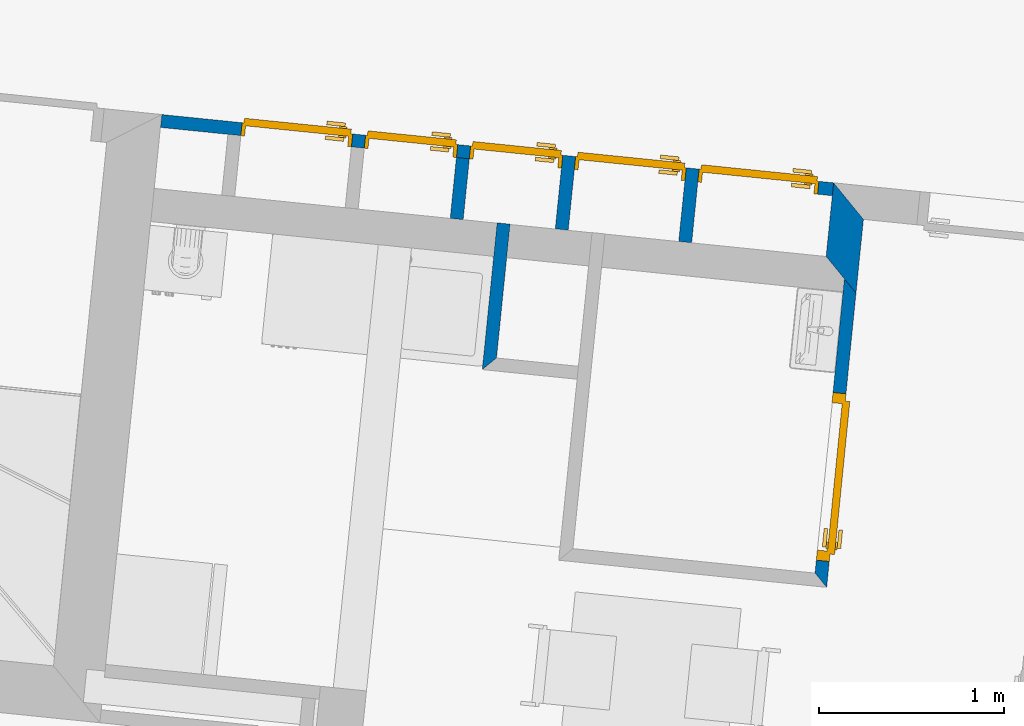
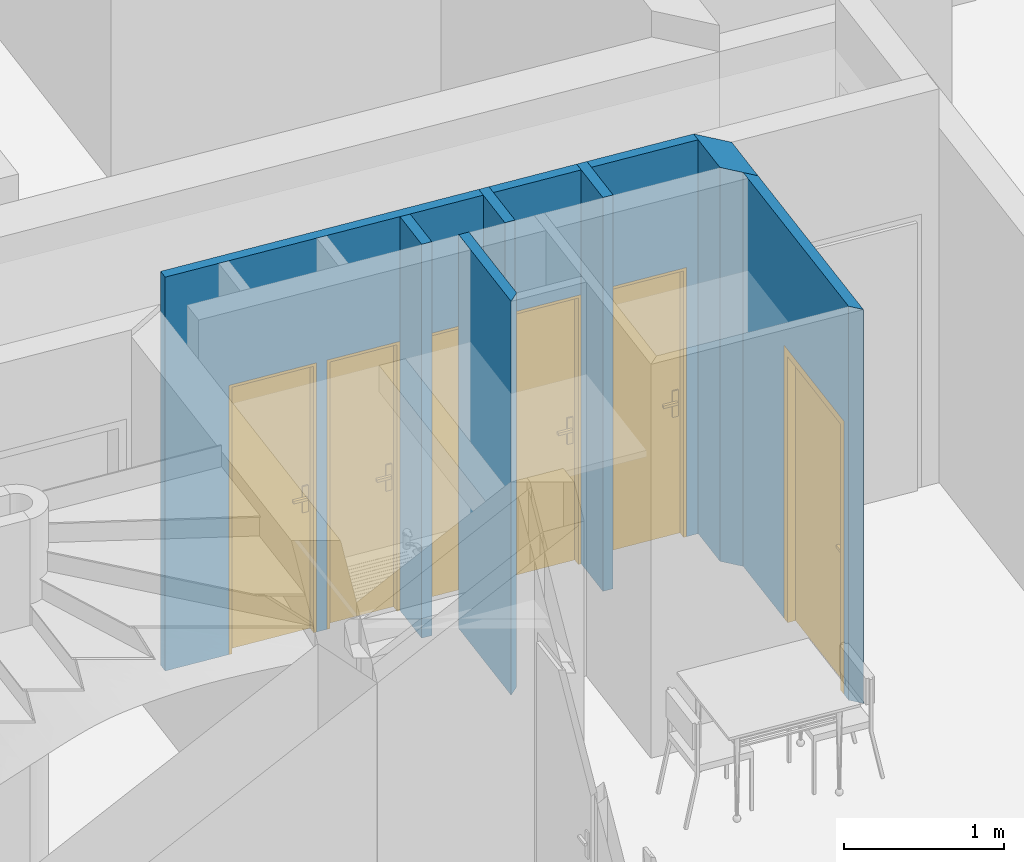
# One storey, part 74 of 171: 7 walls, 6 doors, 6 openings.
"""IFC2X3 building model written with IfcOpenShell, lengths in millimetres."""

from ifc_helpers import new_model, entity, si_unit, converted_unit, derived_unit, money_unit, direction, frame, origin_with_axes, origin_2d_with_axis, place, context, subcontext, project, spatial, polyline, rectangle, outline, extrude, faceted_brep, source, transform, mapped, material, layer, layer_set, layer_usage, type_object, element, fill, save


model = new_model("IFC2X3")

# Units and contexts
model_context = context("Model", 3, precision=0.01, world=origin_with_axes(), true_north=direction((0.0, 1.0)))
body_context = subcontext(model_context, "Body", "Model", "MODEL_VIEW")
ifc_project = project(units=[si_unit("LENGTHUNIT", "METRE", prefix="MILLI"), si_unit("AREAUNIT", "SQUARE_METRE"), si_unit("VOLUMEUNIT", "CUBIC_METRE"), converted_unit("PLANEANGLEUNIT", "DEGREE", entity("IfcPlaneAngleMeasure", 0.0174532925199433), si_unit("PLANEANGLEUNIT", "RADIAN"), dimensions=[0, 0, 0, 0, 0, 0, 0]), money_unit("USD"), converted_unit("TIMEUNIT", "Year", entity("IfcTimeMeasure", 31557600.0), si_unit("TIMEUNIT", "SECOND"), dimensions=[0, 0, 1, 0, 0, 0, 0]), si_unit("MASSUNIT", "GRAM", prefix="KILO"), si_unit("THERMODYNAMICTEMPERATUREUNIT", "DEGREE_CELSIUS"), si_unit("LUMINOUSINTENSITYUNIT", "LUMEN"), si_unit("ENERGYUNIT", "JOULE", prefix="MEGA"), derived_unit("THERMALCONDUCTANCEUNIT", [(si_unit("POWERUNIT", "WATT"), 1), (si_unit("LENGTHUNIT", "METRE"), -1), (si_unit("THERMODYNAMICTEMPERATUREUNIT", "KELVIN"), -1)]), derived_unit("SPECIFICHEATCAPACITYUNIT", [(si_unit("ENERGYUNIT", "JOULE"), 1), (si_unit("MASSUNIT", "GRAM", prefix="KILO"), -1), (si_unit("THERMODYNAMICTEMPERATUREUNIT", "KELVIN"), -1)]), derived_unit("MASSDENSITYUNIT", [(si_unit("MASSUNIT", "GRAM", prefix="KILO"), 1), (si_unit("VOLUMEUNIT", "CUBIC_METRE"), -1)])], contexts=[model_context])

# Site, building, storey
site_placement = place(None, origin_with_axes())
site = spatial("IfcSite", under=ifc_project, at=site_placement, Name="Site", CompositionType="ELEMENT")
building_placement = place(site_placement, origin_with_axes())
building = spatial("IfcBuilding", under=site, at=building_placement, Name="Bâtiment", CompositionType="ELEMENT")
storey_placement = place(building_placement, frame((0.0, 0.0, 3000.0), z_axis=(0.0, 0.0, 1.0), x_axis=(1.0, 0.0, 0.0)))
storey = spatial("IfcBuildingStorey", under=building, at=storey_placement, Name="rdc", CompositionType="ELEMENT", Elevation=3000.0)

# Walls
ifc_material_1 = material(Name="Parpaing 314940890")
ifc_layer_1 = layer(ifc_material_1, 180.0, ventilated="UNKNOWN")
ifc_layer_set_1 = layer_set([ifc_layer_1], Name="Beton  18 0018356637")
ifc_layer_usage_1 = layer_usage(ifc_layer_set_1, "AXIS2", "NEGATIVE", 0.0)
wall_type_1 = type_object("IfcWallType", Name="Beton  18 0018356637 180", PredefinedType="NOTDEFINED")
wall_1_placement = place(storey_placement, frame((2232611.91833897, -614997.468755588, 0.0), z_axis=(0.0, 0.0, 1.0), x_axis=(0.1011032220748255, 0.9948759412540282, 0.0)))
element("IfcWallStandardCase", 1, at=wall_1_placement, inside=storey, type_object=wall_type_1, material=ifc_layer_usage_1, Name="Mur-142", context=body_context, shape_type="SweptSolid", body=[
    extrude(outline(polyline([(-179.9516887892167, -180.0000000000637), (219.9639479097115, -179.99999999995), (399.9639479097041, 0.0), (0.0, 0.0), (-179.9516887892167, -180.0000000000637)])), origin_with_axes(), (0.0, 0.0, 1.0), 3000.0),
])
ifc_material_2 = material(Name="Hachure solide 268963992")
ifc_layer_2 = layer(ifc_material_2, 70.0, ventilated="UNKNOWN")
ifc_layer_set_2 = layer_set([ifc_layer_2], Name="Cloison 70 0826278243")
ifc_layer_usage_2 = layer_usage(ifc_layer_set_2, "AXIS2", "NEGATIVE", 0.0)
wall_type_2 = type_object("IfcWallType", Name="Cloison 70 0826278243 70", PredefinedType="NOTDEFINED")
wall_2_placement = place(storey_placement, frame((2231816.092435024, -614915.8498374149, 0.0), z_axis=(0.0, 0.0, 1.0), x_axis=(0.1011032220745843, 0.9948759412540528, 0.0)))
element("IfcWallStandardCase", 2, at=wall_2_placement, inside=storey, type_object=wall_type_2, material=ifc_layer_usage_2, Name="Mur-121", context=body_context, shape_type="SweptSolid", body=[
    extrude(outline(polyline([(0.0, -70.00000000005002), (399.2769462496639, -70.00000000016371), (399.2769462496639, -1.13686837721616e-10), (0.0, 0.0), (0.0, -70.00000000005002)])), origin_with_axes(), (0.0, 0.0, 1.0), 3000.0),
])

# Wall, openings, doors
ifc_layer_usage_3 = layer_usage(ifc_layer_set_2, "AXIS2", "NEGATIVE", 0.0)
wall_3_placement = place(storey_placement, frame((2229025.375375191, -614230.9661535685, 0.0), z_axis=(0.0, 0.0, 1.0), x_axis=(0.9948759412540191, -0.1011032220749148, 0.0)))
wall_3 = element("IfcWallStandardCase", 3, at=wall_3_placement, inside=storey, type_object=wall_type_2, material=ifc_layer_usage_3, Name="Mur-120", context=body_context, shape_type="SweptSolid", body=[
    extrude(outline(polyline([(0.0, -70.00000000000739), (3645.661189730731, -70.00000000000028), (3645.661189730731, 0.0), (0.0, 0.0), (0.0, -70.00000000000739)])), origin_with_axes(), (0.0, 0.0, 1.0), 3000.0),
])
opening_1_placement = place(wall_3_placement, frame((2545.661208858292, 0.0, 0.0), z_axis=(0.0, 0.0, 1.0), x_axis=(1.0, 0.0, 0.0)))
opening_1 = element("IfcOpeningElement", 4, at=opening_1_placement, cuts=wall_3, Name="Por-202", context=body_context, shape_type="SweptSolid", body=[
    extrude(rectangle(XDim=600.0000000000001, YDim=2050.0, at=origin_2d_with_axis()), frame((-1.13686837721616e-10, -70.0000000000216, 1025.0), z_axis=(0.0, -1.0, 0.0), x_axis=(-1.0, 0.0, 0.0)), (0.0, 0.0, -1.0), 140.0),
])
opening_2_placement = place(wall_3_placement, frame((735.6612088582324, 0.0, 0.0), z_axis=(0.0, 0.0, 1.0), x_axis=(1.0, 0.0, 0.0)))
opening_2 = element("IfcOpeningElement", 5, at=opening_2_placement, cuts=wall_3, Name="Por-202", context=body_context, shape_type="SweptSolid", body=[
    extrude(rectangle(XDim=600.0000000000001, YDim=2050.0, at=origin_2d_with_axis()), frame((-1.13686837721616e-10, -70.00000000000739, 1025.0), z_axis=(0.0, -1.0, 0.0), x_axis=(-1.0, 0.0, 0.0)), (0.0, 0.0, -1.0), 140.0),
])
opening_3_placement = place(wall_3_placement, frame((3240.661208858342, 0.0, 0.0), z_axis=(0.0, 0.0, 1.0), x_axis=(1.0, 0.0, 0.0)))
opening_3 = element("IfcOpeningElement", 6, at=opening_3_placement, cuts=wall_3, Name="Por-202", context=body_context, shape_type="SweptSolid", body=[
    extrude(rectangle(XDim=650.0000000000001, YDim=2050.0, at=origin_2d_with_axis()), frame((-1.13686837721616e-10, -69.99999999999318, 1025.0), z_axis=(0.0, -1.0, 0.0), x_axis=(-1.0, 0.0, 0.0)), (0.0, 0.0, -1.0), 140.0),
])
opening_4_placement = place(wall_3_placement, frame((1925.661208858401, 0.0, 0.0), z_axis=(0.0, 0.0, 1.0), x_axis=(1.0, 0.0, 0.0)))
opening_4 = element("IfcOpeningElement", 7, at=opening_4_placement, cuts=wall_3, Name="Por-202", context=body_context, shape_type="SweptSolid", body=[
    extrude(rectangle(XDim=500.0, YDim=2050.0, at=origin_2d_with_axis()), frame((0.0, -69.99999999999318, 1025.0), z_axis=(0.0, -1.0, 0.0), x_axis=(-1.0, 0.0, 0.0)), (0.0, 0.0, -1.0), 140.0),
])
opening_5_placement = place(wall_3_placement, frame((1355.661208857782, 0.0, 0.0), z_axis=(0.0, 0.0, 1.0), x_axis=(1.0, 0.0, 0.0)))
opening_5 = element("IfcOpeningElement", 8, at=opening_5_placement, cuts=wall_3, Name="Por-202", context=body_context, shape_type="SweptSolid", body=[
    extrude(rectangle(XDim=500.0, YDim=2050.0, at=origin_2d_with_axis()), frame((0.0, -69.99999999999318, 1025.0), z_axis=(0.0, -1.0, 0.0), x_axis=(-1.0, 0.0, 0.0)), (0.0, 0.0, -1.0), 140.0),
])
door_style = type_object("IfcDoorStyle", Name="Porte_1v", ConstructionType="NOTDEFINED", OperationType="NOTDEFINED", ParameterTakesPrecedence=False, Sizeable=False)
shared_shape_1 = source(origin_with_axes(), body_context, "Body", "Brep", [
    faceted_brep([(-250.0, 0.0, 0.0), (-250.0, 0.0, 2050.0), (250.0, 0.0, 2050.0), (250.0, 0.0, 0.0), (240.0, 0.0, 0.0), (240.0, 0.0, 2040.0), (-240.0, 0.0, 2040.0), (-240.0, 0.0, 0.0), (-250.0, -70.0, 0.0), (-250.0, -70.0, 2050.0), (250.0, -70.0, 2050.0), (250.0, -70.0, 0.0), (230.0, -70.0, 0.0), (230.0, -15.0, 0.0), (240.0, -15.0, 0.0), (240.0, -15.0, 2040.0), (-240.0, -15.0, 2040.0), (-240.0, -15.0, 0.0), (-230.0, -15.0, 0.0), (-230.0, -70.0, 0.0), (-230.0, -70.0, 2030.0), (230.0, -70.0, 2030.0), (230.0, -15.0, 2030.0), (-230.0, -15.0, 2030.0)], [[[0, 1, 2, 3, 4, 5, 6, 7]], [[8, 9, 1, 0]], [[9, 10, 2, 1]], [[10, 11, 3, 2]], [[3, 11, 12, 13, 14, 4]], [[5, 4, 14, 15]], [[6, 5, 15, 16]], [[7, 6, 16, 17]], [[0, 7, 17, 18, 19, 8]], [[19, 20, 21, 12, 11, 10, 9, 8]], [[22, 13, 12, 21]], [[17, 16, 15, 14, 13, 22, 23, 18]], [[18, 23, 20, 19]], [[23, 22, 21, 20]]]),
    faceted_brep([(175.0, -15.0, 900.0), (175.0, -15.0, 1100.0), (215.0, -15.0, 1100.0), (215.0, -15.0, 900.0), (175.0, -25.0, 900.0), (175.0, -25.0, 1100.0), (215.0, -25.0, 1100.0), (215.0, -25.0, 900.0)], [[[0, 1, 2, 3]], [[0, 4, 5, 1]], [[1, 5, 6, 2]], [[2, 6, 7, 3]], [[3, 7, 4, 0]], [[7, 6, 5, 4]]]),
    faceted_brep([(105.0, -25.0, 1000.0), (105.0, -25.0, 1020.0), (205.0, -25.0, 1020.0), (205.0, -25.0, 1000.0), (105.0, -45.0, 1000.0), (105.0, -45.0, 1020.0), (205.0, -45.0, 1020.0), (205.0, -45.0, 1000.0)], [[[0, 1, 2, 3]], [[0, 4, 5, 1]], [[1, 5, 6, 2]], [[2, 6, 7, 3]], [[3, 7, 4, 0]], [[7, 6, 5, 4]]]),
    faceted_brep([(175.0, 35.0, 900.0), (175.0, 35.0, 1100.0), (215.0, 35.0, 1100.0), (215.0, 35.0, 900.0), (175.0, 25.0, 900.0), (175.0, 25.0, 1100.0), (215.0, 25.0, 1100.0), (215.0, 25.0, 900.0)], [[[0, 1, 2, 3]], [[0, 4, 5, 1]], [[1, 5, 6, 2]], [[2, 6, 7, 3]], [[3, 7, 4, 0]], [[7, 6, 5, 4]]]),
    faceted_brep([(105.0, 55.00000000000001, 1000.0), (105.0, 55.00000000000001, 1020.0), (205.0, 55.00000000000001, 1020.0), (205.0, 55.00000000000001, 1000.0), (105.0, 35.0, 1000.0), (105.0, 35.0, 1020.0), (205.0, 35.0, 1020.0), (205.0, 35.0, 1000.0)], [[[0, 1, 2, 3]], [[0, 4, 5, 1]], [[1, 5, 6, 2]], [[2, 6, 7, 3]], [[3, 7, 4, 0]], [[7, 6, 5, 4]]]),
    faceted_brep([(240.0, 25.0, 0.0), (240.0, -15.0, 0.0), (-240.0, -15.0, 0.0), (-240.0, 25.0, 0.0), (240.0, 25.0, 2040.0), (240.0, -15.0, 2040.0), (-240.0, -15.0, 2040.0), (-240.0, 25.0, 2040.0)], [[[0, 1, 2, 3]], [[4, 5, 1, 0]], [[1, 5, 6, 2]], [[3, 2, 6, 7]], [[0, 3, 7, 4]], [[7, 6, 5, 4]]]),
])
door_1_placement = place(opening_4_placement, frame((-239.9999999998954, 0.0, 0.0), z_axis=(0.0, 0.0, 1.0), x_axis=(1.0, 0.0, 0.0)))
door_1 = element("IfcDoor", 9, at=door_1_placement, inside=storey, type_object=door_style, Name="Por-202", OverallHeight=2040.0, OverallWidth=480.0, context=body_context, shape_type="MappedRepresentation", body=[
    mapped(shared_shape_1, transform((240.0000000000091, 0.0, 0.0))),
])
fill(opening_4, door_1)
door_2_placement = place(opening_5_placement, frame((-240.0000000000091, 0.0, 0.0), z_axis=(0.0, 0.0, 1.0), x_axis=(1.0, 0.0, 0.0)))
door_2 = element("IfcDoor", 10, at=door_2_placement, inside=storey, type_object=door_style, Name="Por-202", OverallHeight=2040.0, OverallWidth=480.0, context=body_context, shape_type="MappedRepresentation", body=[
    mapped(shared_shape_1, transform((240.0000000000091, 0.0, 0.0))),
])
fill(opening_5, door_2)
shared_shape_2 = source(origin_with_axes(), body_context, "Body", "Brep", [
    faceted_brep([(-300.0, 0.0, 0.0), (-300.0, 0.0, 2050.0), (300.0, 0.0, 2050.0), (300.0, 0.0, 0.0), (290.0, 0.0, 0.0), (290.0, 0.0, 2040.0), (-290.0, 0.0, 2040.0), (-290.0, 0.0, 0.0), (-300.0, -70.0, 0.0), (-300.0, -70.0, 2050.0), (300.0, -70.0, 2050.0), (300.0, -70.0, 0.0), (279.9999999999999, -70.0, 0.0), (279.9999999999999, -15.0, 0.0), (290.0, -15.0, 0.0), (290.0, -15.0, 2040.0), (-290.0, -15.0, 2040.0), (-290.0, -15.0, 0.0), (-279.9999999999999, -15.0, 0.0), (-279.9999999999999, -70.0, 0.0), (-279.9999999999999, -70.0, 2030.0), (279.9999999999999, -70.0, 2030.0), (279.9999999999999, -15.0, 2030.0), (-279.9999999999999, -15.0, 2030.0)], [[[0, 1, 2, 3, 4, 5, 6, 7]], [[8, 9, 1, 0]], [[9, 10, 2, 1]], [[10, 11, 3, 2]], [[3, 11, 12, 13, 14, 4]], [[5, 4, 14, 15]], [[6, 5, 15, 16]], [[7, 6, 16, 17]], [[0, 7, 17, 18, 19, 8]], [[19, 20, 21, 12, 11, 10, 9, 8]], [[22, 13, 12, 21]], [[17, 16, 15, 14, 13, 22, 23, 18]], [[18, 23, 20, 19]], [[23, 22, 21, 20]]]),
    faceted_brep([(224.9999999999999, -15.0, 900.0), (224.9999999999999, -15.0, 1100.0), (264.9999999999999, -15.0, 1100.0), (264.9999999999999, -15.0, 900.0), (224.9999999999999, -25.0, 900.0), (224.9999999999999, -25.0, 1100.0), (264.9999999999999, -25.0, 1100.0), (264.9999999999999, -25.0, 900.0)], [[[0, 1, 2, 3]], [[0, 4, 5, 1]], [[1, 5, 6, 2]], [[2, 6, 7, 3]], [[3, 7, 4, 0]], [[7, 6, 5, 4]]]),
    faceted_brep([(154.9999999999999, -25.0, 1000.0), (154.9999999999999, -25.0, 1020.0), (254.9999999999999, -25.0, 1020.0), (254.9999999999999, -25.0, 1000.0), (154.9999999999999, -45.0, 1000.0), (154.9999999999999, -45.0, 1020.0), (254.9999999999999, -45.0, 1020.0), (254.9999999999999, -45.0, 1000.0)], [[[0, 1, 2, 3]], [[0, 4, 5, 1]], [[1, 5, 6, 2]], [[2, 6, 7, 3]], [[3, 7, 4, 0]], [[7, 6, 5, 4]]]),
    faceted_brep([(224.9999999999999, 35.0, 900.0), (224.9999999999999, 35.0, 1100.0), (264.9999999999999, 35.0, 1100.0), (264.9999999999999, 35.0, 900.0), (224.9999999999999, 25.0, 900.0), (224.9999999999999, 25.0, 1100.0), (264.9999999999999, 25.0, 1100.0), (264.9999999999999, 25.0, 900.0)], [[[0, 1, 2, 3]], [[0, 4, 5, 1]], [[1, 5, 6, 2]], [[2, 6, 7, 3]], [[3, 7, 4, 0]], [[7, 6, 5, 4]]]),
    faceted_brep([(154.9999999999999, 55.00000000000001, 1000.0), (154.9999999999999, 55.00000000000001, 1020.0), (254.9999999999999, 55.00000000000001, 1020.0), (254.9999999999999, 55.00000000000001, 1000.0), (154.9999999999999, 35.0, 1000.0), (154.9999999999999, 35.0, 1020.0), (254.9999999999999, 35.0, 1020.0), (254.9999999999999, 35.0, 1000.0)], [[[0, 1, 2, 3]], [[0, 4, 5, 1]], [[1, 5, 6, 2]], [[2, 6, 7, 3]], [[3, 7, 4, 0]], [[7, 6, 5, 4]]]),
    faceted_brep([(290.0, 25.0, 0.0), (290.0, -15.0, 0.0), (-290.0, -15.0, 0.0), (-290.0, 25.0, 0.0), (290.0, 25.0, 2040.0), (290.0, -15.0, 2040.0), (-290.0, -15.0, 2040.0), (-290.0, 25.0, 2040.0)], [[[0, 1, 2, 3]], [[4, 5, 1, 0]], [[1, 5, 6, 2]], [[3, 2, 6, 7]], [[0, 3, 7, 4]], [[7, 6, 5, 4]]]),
])
door_3_placement = place(opening_2_placement, frame((-290.0000000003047, 0.0, 0.0), z_axis=(0.0, 0.0, 1.0), x_axis=(1.0, 0.0, 0.0)))
door_3 = element("IfcDoor", 11, at=door_3_placement, inside=storey, type_object=door_style, Name="Por-202", OverallHeight=2040.0, OverallWidth=580.0, context=body_context, shape_type="MappedRepresentation", body=[
    mapped(shared_shape_2, transform((290.0000000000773, 0.0, 0.0))),
])
fill(opening_2, door_3)
door_4_placement = place(opening_1_placement, frame((-290.0000000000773, 0.0, 0.0), z_axis=(0.0, 0.0, 1.0), x_axis=(1.0, 0.0, 0.0)))
door_4 = element("IfcDoor", 12, at=door_4_placement, inside=storey, type_object=door_style, Name="Por-202", OverallHeight=2040.0, OverallWidth=580.0, context=body_context, shape_type="MappedRepresentation", body=[
    mapped(shared_shape_2, transform((290.0000000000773, 0.0, 0.0))),
])
fill(opening_1, door_4)
shared_shape_3 = source(origin_with_axes(), body_context, "Body", "Brep", [
    faceted_brep([(-325.0, 0.0, 0.0), (-325.0, 0.0, 2050.0), (325.0, 0.0, 2050.0), (325.0, 0.0, 0.0), (315.0, 0.0, 0.0), (315.0, 0.0, 2040.0), (-315.0, 0.0, 2040.0), (-315.0, 0.0, 0.0), (-325.0, -70.0, 0.0), (-325.0, -70.0, 2050.0), (325.0, -70.0, 2050.0), (325.0, -70.0, 0.0), (305.0, -70.0, 0.0), (305.0, -15.0, 0.0), (315.0, -15.0, 0.0), (315.0, -15.0, 2040.0), (-315.0, -15.0, 2040.0), (-315.0, -15.0, 0.0), (-305.0, -15.0, 0.0), (-305.0, -70.0, 0.0), (-305.0, -70.0, 2030.0), (305.0, -70.0, 2030.0), (305.0, -15.0, 2030.0), (-305.0, -15.0, 2030.0)], [[[0, 1, 2, 3, 4, 5, 6, 7]], [[8, 9, 1, 0]], [[9, 10, 2, 1]], [[10, 11, 3, 2]], [[3, 11, 12, 13, 14, 4]], [[5, 4, 14, 15]], [[6, 5, 15, 16]], [[7, 6, 16, 17]], [[0, 7, 17, 18, 19, 8]], [[19, 20, 21, 12, 11, 10, 9, 8]], [[22, 13, 12, 21]], [[17, 16, 15, 14, 13, 22, 23, 18]], [[18, 23, 20, 19]], [[23, 22, 21, 20]]]),
    faceted_brep([(250.0, -15.0, 900.0), (250.0, -15.0, 1100.0), (290.0, -15.0, 1100.0), (290.0, -15.0, 900.0), (250.0, -25.0, 900.0), (250.0, -25.0, 1100.0), (290.0, -25.0, 1100.0), (290.0, -25.0, 900.0)], [[[0, 1, 2, 3]], [[0, 4, 5, 1]], [[1, 5, 6, 2]], [[2, 6, 7, 3]], [[3, 7, 4, 0]], [[7, 6, 5, 4]]]),
    faceted_brep([(180.0, -25.0, 1000.0), (180.0, -25.0, 1020.0), (279.9999999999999, -25.0, 1020.0), (279.9999999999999, -25.0, 1000.0), (180.0, -45.0, 1000.0), (180.0, -45.0, 1020.0), (279.9999999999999, -45.0, 1020.0), (279.9999999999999, -45.0, 1000.0)], [[[0, 1, 2, 3]], [[0, 4, 5, 1]], [[1, 5, 6, 2]], [[2, 6, 7, 3]], [[3, 7, 4, 0]], [[7, 6, 5, 4]]]),
    faceted_brep([(250.0, 35.0, 900.0), (250.0, 35.0, 1100.0), (290.0, 35.0, 1100.0), (290.0, 35.0, 900.0), (250.0, 25.0, 900.0), (250.0, 25.0, 1100.0), (290.0, 25.0, 1100.0), (290.0, 25.0, 900.0)], [[[0, 1, 2, 3]], [[0, 4, 5, 1]], [[1, 5, 6, 2]], [[2, 6, 7, 3]], [[3, 7, 4, 0]], [[7, 6, 5, 4]]]),
    faceted_brep([(180.0, 55.00000000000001, 1000.0), (180.0, 55.00000000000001, 1020.0), (279.9999999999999, 55.00000000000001, 1020.0), (279.9999999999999, 55.00000000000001, 1000.0), (180.0, 35.0, 1000.0), (180.0, 35.0, 1020.0), (279.9999999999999, 35.0, 1020.0), (279.9999999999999, 35.0, 1000.0)], [[[0, 1, 2, 3]], [[0, 4, 5, 1]], [[1, 5, 6, 2]], [[2, 6, 7, 3]], [[3, 7, 4, 0]], [[7, 6, 5, 4]]]),
    faceted_brep([(315.0, 25.0, 0.0), (315.0, -15.0, 0.0), (-315.0, -15.0, 0.0), (-315.0, 25.0, 0.0), (315.0, 25.0, 2040.0), (315.0, -15.0, 2040.0), (-315.0, -15.0, 2040.0), (-315.0, 25.0, 2040.0)], [[[0, 1, 2, 3]], [[4, 5, 1, 0]], [[1, 5, 6, 2]], [[3, 2, 6, 7]], [[0, 3, 7, 4]], [[7, 6, 5, 4]]]),
])
door_5_placement = place(opening_3_placement, frame((-315.0000000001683, 0.0, 0.0), z_axis=(0.0, 0.0, 1.0), x_axis=(1.0, 0.0, 0.0)))
door_5 = element("IfcDoor", 13, at=door_5_placement, inside=storey, type_object=door_style, Name="Por-202", OverallHeight=2040.0, OverallWidth=630.0, context=body_context, shape_type="MappedRepresentation", body=[
    mapped(shared_shape_3, transform((315.0000000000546, 0.0, 0.0))),
])
fill(opening_3, door_5)

# Walls
ifc_layer_usage_4 = layer_usage(ifc_layer_set_2, "AXIS2", "NEGATIVE", 0.0)
wall_4_placement = place(storey_placement, frame((2231149.577907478, -614847.5955137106, 0.0), z_axis=(0.0, 0.0, 1.0), x_axis=(0.1011032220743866, 0.9948759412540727, 0.0)))
element("IfcWallStandardCase", 14, at=wall_4_placement, inside=storey, type_object=wall_type_2, material=ifc_layer_usage_4, Name="Mur-121", context=body_context, shape_type="SweptSolid", body=[
    extrude(outline(polyline([(0.0, -70.00000000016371), (398.7785697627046, -70.00000000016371), (398.7785697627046, -1.13686837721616e-10), (0.0, 0.0), (0.0, -70.00000000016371)])), origin_with_axes(), (0.0, 0.0, 1.0), 3000.0),
])
ifc_layer_usage_5 = layer_usage(ifc_layer_set_2, "AXIS2", "POSITIVE", -70.0)
wall_5_placement = place(storey_placement, frame((2230755.395806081, -615607.9029698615, 0.0), z_axis=(0.0, 0.0, 1.0), x_axis=(0.1005435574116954, 0.9949326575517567, 0.0)))
element("IfcWallStandardCase", 15, at=wall_5_placement, inside=storey, type_object=wall_type_2, material=ifc_layer_usage_5, Name="Mur-148", context=body_context, shape_type="SweptSolid", body=[
    extrude(outline(polyline([(69.95883712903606, -70.00000000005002), (796.1364588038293, -70.00000000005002), (796.1364588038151, 0.0), (0.0, 0.0), (69.95883712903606, -70.00000000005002)])), origin_with_axes(), (0.0, 0.0, 1.0), 3000.0),
])

# Wall, opening, door
ifc_layer_usage_6 = layer_usage(ifc_layer_set_2, "AXIS2", "POSITIVE", 0.0)
wall_6_placement = place(storey_placement, frame((2232621.657396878, -616713.8924305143, 0.0), z_axis=(0.0, 0.0, 1.0), x_axis=(0.09919668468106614, 0.9950678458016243, 0.0)))
wall_6 = element("IfcWallStandardCase", 16, at=wall_6_placement, inside=storey, type_object=wall_type_2, material=ifc_layer_usage_6, Name="Mur-121", context=body_context, shape_type="SweptSolid", body=[
    extrude(outline(polyline([(-70.0000692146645, 0.0), (1683.111968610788, 0.0), (1683.111968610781, 69.99999999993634), (0.0984380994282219, 69.99999999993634), (-70.0000692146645, 0.0)])), origin_with_axes(), (0.0, 0.0, 1.0), 3000.0),
])
opening_6_placement = place(wall_6_placement, frame((525.0985266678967, 0.0, 0.0), z_axis=(0.0, 0.0, 1.0), x_axis=(1.0, 0.0, 0.0)))
opening_6 = element("IfcOpeningElement", 17, at=opening_6_placement, cuts=wall_6, Name="Por-278", context=body_context, shape_type="SweptSolid", body=[
    extrude(rectangle(XDim=909.9999999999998, YDim=2080.0, at=origin_2d_with_axis()), frame((0.0, 70.00000000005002, 1040.0), z_axis=(0.0, 1.0, 0.0), x_axis=(1.0, 0.0, 0.0)), (0.0, 0.0, -1.0), 140.0),
])
shared_shape_4 = source(origin_with_axes(), body_context, "Body", "Brep", [
    faceted_brep([(-454.9999999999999, 0.0, 0.0), (-454.9999999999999, 0.0, 2080.0), (454.9999999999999, 0.0, 2080.0), (454.9999999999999, 0.0, 0.0), (414.9999999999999, 0.0, 0.0), (414.9999999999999, 0.0, 2040.0), (-414.9999999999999, 0.0, 2040.0), (-414.9999999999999, 0.0, 0.0), (-454.9999999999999, -69.99999999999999, 0.0), (-454.9999999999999, -69.99999999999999, 2080.0), (454.9999999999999, -69.99999999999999, 2080.0), (454.9999999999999, -69.99999999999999, 0.0), (399.9999999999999, -69.99999999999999, 0.0), (399.9999999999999, -15.0, 0.0), (414.9999999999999, -15.0, 0.0), (414.9999999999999, -15.0, 2040.0), (-414.9999999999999, -14.99999999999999, 2040.0), (-414.9999999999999, -14.99999999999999, 0.0), (-399.9999999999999, -14.99999999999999, 0.0), (-399.9999999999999, -69.99999999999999, 0.0), (-399.9999999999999, -69.99999999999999, 2025.0), (399.9999999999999, -69.99999999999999, 2025.0), (399.9999999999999, -15.0, 2025.0), (-399.9999999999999, -14.99999999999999, 2025.0)], [[[0, 1, 2, 3, 4, 5, 6, 7]], [[8, 9, 1, 0]], [[9, 10, 2, 1]], [[10, 11, 3, 2]], [[3, 11, 12, 13, 14, 4]], [[5, 4, 14, 15]], [[6, 5, 15, 16]], [[7, 6, 16, 17]], [[0, 7, 17, 18, 19, 8]], [[19, 20, 21, 12, 11, 10, 9, 8]], [[22, 13, 12, 21]], [[17, 16, 15, 14, 13, 22, 23, 18]], [[18, 23, 20, 19]], [[23, 22, 21, 20]]]),
    faceted_brep([(350.0, -15.0, 900.0), (350.0, -15.0, 1100.0), (389.9999999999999, -15.0, 1100.0), (389.9999999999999, -15.0, 900.0), (350.0, -25.0, 900.0), (350.0, -25.0, 1100.0), (389.9999999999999, -25.0, 1100.0), (389.9999999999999, -25.0, 900.0)], [[[0, 1, 2, 3]], [[0, 4, 5, 1]], [[1, 5, 6, 2]], [[2, 6, 7, 3]], [[3, 7, 4, 0]], [[7, 6, 5, 4]]]),
    faceted_brep([(279.9999999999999, -25.0, 1000.0), (279.9999999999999, -25.0, 1020.0), (379.9999999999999, -25.0, 1020.0), (379.9999999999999, -25.0, 1000.0), (279.9999999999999, -45.0, 1000.0), (279.9999999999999, -45.0, 1020.0), (379.9999999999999, -45.0, 1020.0), (379.9999999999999, -45.0, 1000.0)], [[[0, 1, 2, 3]], [[0, 4, 5, 1]], [[1, 5, 6, 2]], [[2, 6, 7, 3]], [[3, 7, 4, 0]], [[7, 6, 5, 4]]]),
    faceted_brep([(350.0, 34.99999999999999, 900.0), (350.0, 34.99999999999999, 1100.0), (389.9999999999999, 34.99999999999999, 1100.0), (389.9999999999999, 34.99999999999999, 900.0), (350.0, 24.99999999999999, 900.0), (350.0, 24.99999999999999, 1100.0), (389.9999999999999, 24.99999999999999, 1100.0), (389.9999999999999, 24.99999999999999, 900.0)], [[[0, 1, 2, 3]], [[0, 4, 5, 1]], [[1, 5, 6, 2]], [[2, 6, 7, 3]], [[3, 7, 4, 0]], [[7, 6, 5, 4]]]),
    faceted_brep([(279.9999999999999, 54.99999999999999, 1000.0), (279.9999999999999, 54.99999999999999, 1020.0), (379.9999999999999, 54.99999999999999, 1020.0), (379.9999999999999, 54.99999999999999, 1000.0), (279.9999999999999, 34.99999999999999, 1000.0), (279.9999999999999, 34.99999999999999, 1020.0), (379.9999999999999, 34.99999999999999, 1020.0), (379.9999999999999, 34.99999999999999, 1000.0)], [[[0, 1, 2, 3]], [[0, 4, 5, 1]], [[1, 5, 6, 2]], [[2, 6, 7, 3]], [[3, 7, 4, 0]], [[7, 6, 5, 4]]]),
    faceted_brep([(414.9999999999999, 24.99999999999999, 0.0), (414.9999999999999, -15.0, 0.0), (-414.9999999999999, -14.99999999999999, 0.0), (-414.9999999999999, 25.0, 0.0), (414.9999999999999, 24.99999999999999, 2040.0), (414.9999999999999, -15.0, 2040.0), (-414.9999999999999, -14.99999999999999, 2040.0), (-414.9999999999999, 25.0, 2040.0)], [[[0, 1, 2, 3]], [[4, 5, 1, 0]], [[1, 5, 6, 2]], [[3, 2, 6, 7]], [[0, 3, 7, 4]], [[7, 6, 5, 4]]]),
])
door_6_placement = place(opening_6_placement, frame((415.0000000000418, 0.0, 0.0), z_axis=(0.0, 0.0, 1.0), x_axis=(-1.0, 0.0, 0.0)))
door_6 = element("IfcDoor", 18, at=door_6_placement, inside=storey, type_object=door_style, Name="Por-278", OverallHeight=2040.0, OverallWidth=830.0, context=body_context, shape_type="MappedRepresentation", body=[
    mapped(shared_shape_4, transform((414.9999999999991, 0.0, 0.0))),
])
fill(opening_6, door_6)

# Wall
ifc_layer_usage_7 = layer_usage(ifc_layer_set_2, "AXIS2", "NEGATIVE", 0.0)
wall_7_placement = place(storey_placement, frame((2230582.355582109, -614791.3742080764, 0.0), z_axis=(0.0, 0.0, 1.0), x_axis=(0.1011032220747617, 0.9948759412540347, 0.0)))
element("IfcWallStandardCase", 19, at=wall_7_placement, inside=storey, type_object=wall_type_2, material=ifc_layer_usage_7, Name="Mur-121", context=body_context, shape_type="SweptSolid", body=[
    extrude(outline(polyline([(0.0, -70.00000000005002), (330.1207750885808, -70.00000000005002), (330.1207750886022, 0.0), (0.0, 0.0), (0.0, -70.00000000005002)])), origin_with_axes(), (0.0, 0.0, 1.0), 3000.0),
])

save(model, "model.ifc")
